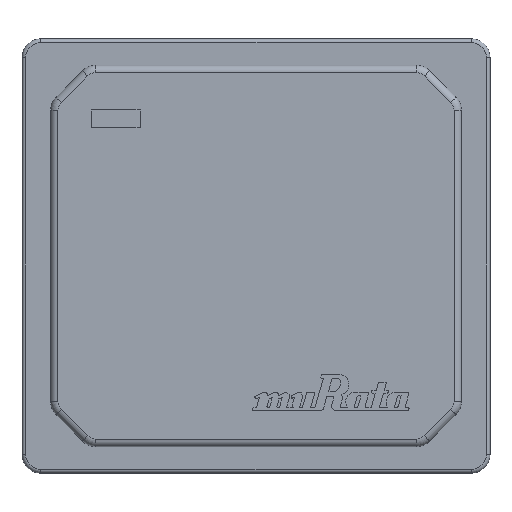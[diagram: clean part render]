
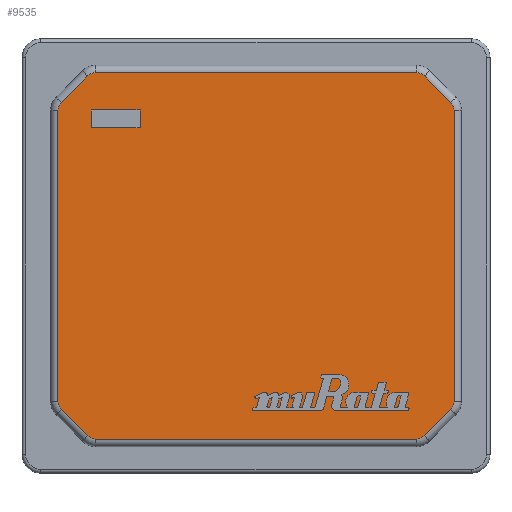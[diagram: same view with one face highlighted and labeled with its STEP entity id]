
A CAD part, top view. The second image highlights one B-rep face of the part: STEP entity #9535.
In plain terms, the highlighted planar face has unit normal (0, 0, 1).
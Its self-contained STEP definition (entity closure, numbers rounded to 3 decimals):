
#698=FACE_OUTER_BOUND('',#1268,.T.);
#1268=EDGE_LOOP('',(#7682,#7683,#7684,#7685,#7686,#7687,#7688,#7689,#7690,
#7691,#7692,#7693,#7694,#7695,#7696,#7697));
#1497=CIRCLE('',#10206,0.3);
#1500=CIRCLE('',#10211,0.3);
#1503=CIRCLE('',#10216,0.3);
#1506=CIRCLE('',#10221,0.3);
#1509=CIRCLE('',#10226,0.3);
#1512=CIRCLE('',#10231,0.3);
#1515=CIRCLE('',#10236,0.3);
#1517=CIRCLE('',#10240,0.3);
#2433=LINE('',#15021,#3515);
#2434=LINE('',#15029,#3516);
#2435=LINE('',#15037,#3517);
#2436=LINE('',#15045,#3518);
#2437=LINE('',#15053,#3519);
#2438=LINE('',#15061,#3520);
#2439=LINE('',#15069,#3521);
#2440=LINE('',#15077,#3522);
#3515=VECTOR('',#12205,8.564);
#3516=VECTOR('',#12216,1.);
#3517=VECTOR('',#12227,7.774);
#3518=VECTOR('',#12238,1.);
#3519=VECTOR('',#12249,8.564);
#3520=VECTOR('',#12260,1.);
#3521=VECTOR('',#12271,7.774);
#3522=VECTOR('',#12282,1.);
#4382=VERTEX_POINT('',#15017);
#4383=VERTEX_POINT('',#15019);
#4384=VERTEX_POINT('',#15023);
#4385=VERTEX_POINT('',#15027);
#4386=VERTEX_POINT('',#15031);
#4387=VERTEX_POINT('',#15035);
#4388=VERTEX_POINT('',#15039);
#4389=VERTEX_POINT('',#15043);
#4390=VERTEX_POINT('',#15047);
#4391=VERTEX_POINT('',#15051);
#4392=VERTEX_POINT('',#15055);
#4393=VERTEX_POINT('',#15059);
#4394=VERTEX_POINT('',#15063);
#4395=VERTEX_POINT('',#15067);
#4396=VERTEX_POINT('',#15071);
#4397=VERTEX_POINT('',#15075);
#5523=EDGE_CURVE('',#4383,#4382,#2433,.T.);
#5525=EDGE_CURVE('',#4384,#4383,#1497,.T.);
#5527=EDGE_CURVE('',#4385,#4384,#2434,.T.);
#5529=EDGE_CURVE('',#4386,#4385,#1500,.T.);
#5531=EDGE_CURVE('',#4387,#4386,#2435,.T.);
#5533=EDGE_CURVE('',#4388,#4387,#1503,.T.);
#5535=EDGE_CURVE('',#4389,#4388,#2436,.T.);
#5537=EDGE_CURVE('',#4390,#4389,#1506,.T.);
#5539=EDGE_CURVE('',#4391,#4390,#2437,.T.);
#5541=EDGE_CURVE('',#4392,#4391,#1509,.T.);
#5543=EDGE_CURVE('',#4393,#4392,#2438,.T.);
#5545=EDGE_CURVE('',#4394,#4393,#1512,.T.);
#5547=EDGE_CURVE('',#4395,#4394,#2439,.T.);
#5549=EDGE_CURVE('',#4396,#4395,#1515,.T.);
#5551=EDGE_CURVE('',#4397,#4396,#2440,.T.);
#5552=EDGE_CURVE('',#4382,#4397,#1517,.T.);
#7682=ORIENTED_EDGE('',*,*,#5523,.F.);
#7683=ORIENTED_EDGE('',*,*,#5525,.F.);
#7684=ORIENTED_EDGE('',*,*,#5527,.F.);
#7685=ORIENTED_EDGE('',*,*,#5529,.F.);
#7686=ORIENTED_EDGE('',*,*,#5531,.F.);
#7687=ORIENTED_EDGE('',*,*,#5533,.F.);
#7688=ORIENTED_EDGE('',*,*,#5535,.F.);
#7689=ORIENTED_EDGE('',*,*,#5537,.F.);
#7690=ORIENTED_EDGE('',*,*,#5539,.F.);
#7691=ORIENTED_EDGE('',*,*,#5541,.F.);
#7692=ORIENTED_EDGE('',*,*,#5543,.F.);
#7693=ORIENTED_EDGE('',*,*,#5545,.F.);
#7694=ORIENTED_EDGE('',*,*,#5547,.F.);
#7695=ORIENTED_EDGE('',*,*,#5549,.F.);
#7696=ORIENTED_EDGE('',*,*,#5551,.F.);
#7697=ORIENTED_EDGE('',*,*,#5552,.F.);
#9050=PLANE('',#10241);
#9535=ADVANCED_FACE('',(#698),#9050,.T.);
#10206=AXIS2_PLACEMENT_3D('',#15025,#12210,#12211);
#10211=AXIS2_PLACEMENT_3D('',#15033,#12221,#12222);
#10216=AXIS2_PLACEMENT_3D('',#15041,#12232,#12233);
#10221=AXIS2_PLACEMENT_3D('',#15049,#12243,#12244);
#10226=AXIS2_PLACEMENT_3D('',#15057,#12254,#12255);
#10231=AXIS2_PLACEMENT_3D('',#15065,#12265,#12266);
#10236=AXIS2_PLACEMENT_3D('',#15073,#12276,#12277);
#10240=AXIS2_PLACEMENT_3D('',#15079,#12285,#12286);
#10241=AXIS2_PLACEMENT_3D('',#15080,#12287,#12288);
#12205=DIRECTION('',(1.,0.,0.));
#12210=DIRECTION('center_axis',(0.,0.,-1.));
#12211=DIRECTION('ref_axis',(-0.383,0.924,0.));
#12216=DIRECTION('',(0.707,0.707,0.));
#12221=DIRECTION('center_axis',(0.,0.,-1.));
#12222=DIRECTION('ref_axis',(-0.924,0.383,0.));
#12227=DIRECTION('',(0.,1.,0.));
#12232=DIRECTION('center_axis',(0.,0.,-1.));
#12233=DIRECTION('ref_axis',(-0.924,-0.383,0.));
#12238=DIRECTION('',(-0.707,0.707,0.));
#12243=DIRECTION('center_axis',(0.,0.,-1.));
#12244=DIRECTION('ref_axis',(-0.383,-0.924,0.));
#12249=DIRECTION('',(-1.,0.,0.));
#12254=DIRECTION('center_axis',(0.,0.,-1.));
#12255=DIRECTION('ref_axis',(0.383,-0.924,0.));
#12260=DIRECTION('',(-0.707,-0.707,0.));
#12265=DIRECTION('center_axis',(0.,0.,-1.));
#12266=DIRECTION('ref_axis',(0.924,-0.383,0.));
#12271=DIRECTION('',(0.,-1.,0.));
#12276=DIRECTION('center_axis',(0.,0.,-1.));
#12277=DIRECTION('ref_axis',(0.924,0.383,0.));
#12282=DIRECTION('',(0.707,-0.707,0.));
#12285=DIRECTION('center_axis',(0.,0.,-1.));
#12286=DIRECTION('ref_axis',(0.383,0.924,0.));
#12287=DIRECTION('center_axis',(0.,0.,1.));
#12288=DIRECTION('ref_axis',(1.,0.,0.));
#15017=CARTESIAN_POINT('',(4.282,4.894,1.66));
#15019=CARTESIAN_POINT('',(-4.282,4.894,1.66));
#15021=CARTESIAN_POINT('',(-2.745,4.894,1.66));
#15023=CARTESIAN_POINT('',(-4.494,4.806,1.66));
#15025=CARTESIAN_POINT('Origin',(-4.282,4.594,1.66));
#15027=CARTESIAN_POINT('',(-5.201,4.099,1.66));
#15029=CARTESIAN_POINT('',(-4.749,4.551,1.66));
#15031=CARTESIAN_POINT('',(-5.289,3.887,1.66));
#15033=CARTESIAN_POINT('Origin',(-4.989,3.887,1.66));
#15035=CARTESIAN_POINT('',(-5.289,-3.887,1.66));
#15037=CARTESIAN_POINT('',(-5.289,-2.547,1.66));
#15039=CARTESIAN_POINT('',(-5.201,-4.099,1.66));
#15041=CARTESIAN_POINT('Origin',(-4.989,-3.887,1.66));
#15043=CARTESIAN_POINT('',(-4.494,-4.806,1.66));
#15045=CARTESIAN_POINT('',(-4.749,-4.551,1.66));
#15047=CARTESIAN_POINT('',(-4.282,-4.894,1.66));
#15049=CARTESIAN_POINT('Origin',(-4.282,-4.594,1.66));
#15051=CARTESIAN_POINT('',(4.282,-4.894,1.66));
#15053=CARTESIAN_POINT('',(2.745,-4.894,1.66));
#15055=CARTESIAN_POINT('',(4.494,-4.806,1.66));
#15057=CARTESIAN_POINT('Origin',(4.282,-4.594,1.66));
#15059=CARTESIAN_POINT('',(5.201,-4.099,1.66));
#15061=CARTESIAN_POINT('',(4.749,-4.551,1.66));
#15063=CARTESIAN_POINT('',(5.289,-3.887,1.66));
#15065=CARTESIAN_POINT('Origin',(4.989,-3.887,1.66));
#15067=CARTESIAN_POINT('',(5.289,3.887,1.66));
#15069=CARTESIAN_POINT('',(5.289,2.547,1.66));
#15071=CARTESIAN_POINT('',(5.201,4.099,1.66));
#15073=CARTESIAN_POINT('Origin',(4.989,3.887,1.66));
#15075=CARTESIAN_POINT('',(4.494,4.806,1.66));
#15077=CARTESIAN_POINT('',(4.749,4.551,1.66));
#15079=CARTESIAN_POINT('Origin',(4.282,4.594,1.66));
#15080=CARTESIAN_POINT('Origin',(0.,0.,1.66));
